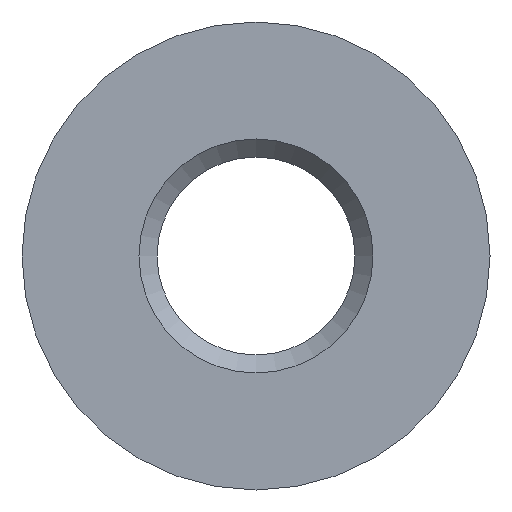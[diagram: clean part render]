
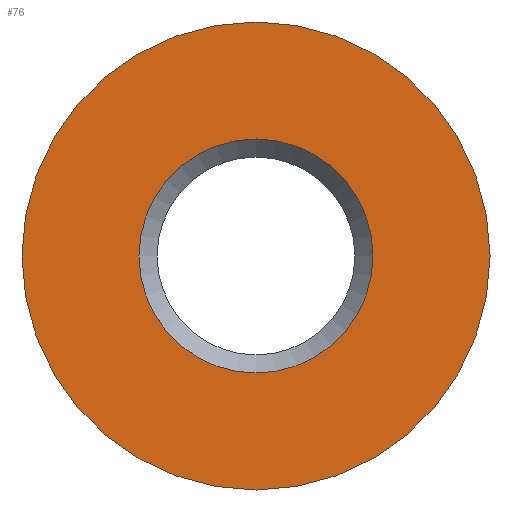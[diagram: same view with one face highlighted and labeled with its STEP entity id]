
A CAD part, front view. The second image highlights one B-rep face of the part: STEP entity #76.
In plain terms, the highlighted planar face has unit normal (0, -1, 0).
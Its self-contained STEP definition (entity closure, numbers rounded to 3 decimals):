
#76 = ADVANCED_FACE( '', ( #97, #98 ), #99, .F. );
#97 = FACE_BOUND( '', #142, .T. );
#98 = FACE_OUTER_BOUND( '', #143, .T. );
#99 = PLANE( '', #144 );
#142 = EDGE_LOOP( '', ( #193 ) );
#143 = EDGE_LOOP( '', ( #194 ) );
#144 = AXIS2_PLACEMENT_3D( '', #195, #196, #197 );
#193 = ORIENTED_EDGE( '', *, *, #319, .F. );
#194 = ORIENTED_EDGE( '', *, *, #320, .T. );
#195 = CARTESIAN_POINT( '', ( 14., 0., 0. ) );
#196 = DIRECTION( '', ( 0., 1., 0. ) );
#197 = DIRECTION( '', ( 0., 0., 1. ) );
#319 = EDGE_CURVE( '', #360, #360, #361, .T. );
#320 = EDGE_CURVE( '', #362, #362, #363, .T. );
#360 = VERTEX_POINT( '', #435 );
#361 = CIRCLE( '', #436, 7. );
#362 = VERTEX_POINT( '', #437 );
#363 = CIRCLE( '', #438, 14. );
#435 = CARTESIAN_POINT( '', ( 0., 0., -7. ) );
#436 = AXIS2_PLACEMENT_3D( '', #569, #570, #571 );
#437 = CARTESIAN_POINT( '', ( 0., 0., -14. ) );
#438 = AXIS2_PLACEMENT_3D( '', #572, #573, #574 );
#569 = CARTESIAN_POINT( '', ( 0., 0., 0. ) );
#570 = DIRECTION( '', ( 0., -1., 0. ) );
#571 = DIRECTION( '', ( 0., 0., -1. ) );
#572 = CARTESIAN_POINT( '', ( 0., 0., 0. ) );
#573 = DIRECTION( '', ( 0., -1., 0. ) );
#574 = DIRECTION( '', ( 0., 0., -1. ) );
